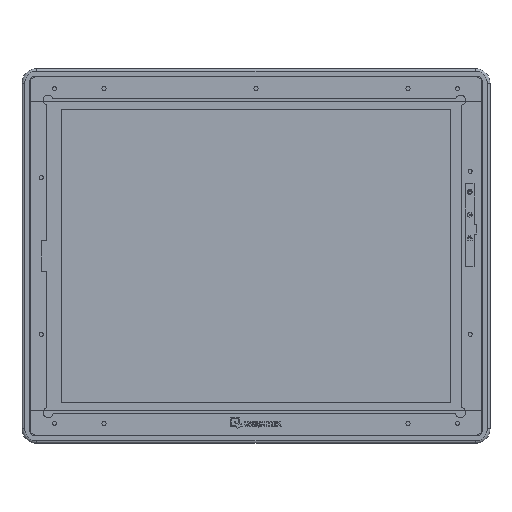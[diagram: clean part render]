
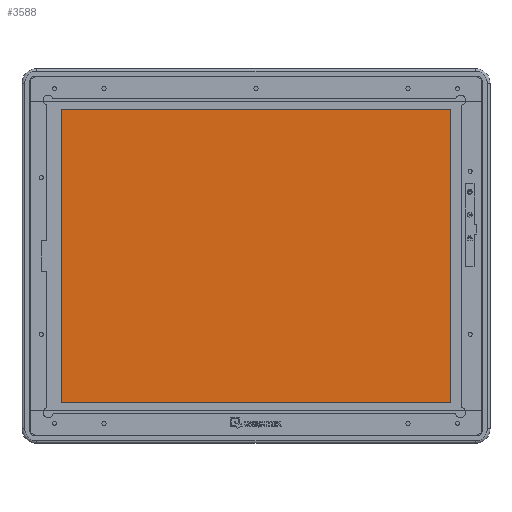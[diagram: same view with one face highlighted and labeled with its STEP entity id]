
A CAD part, top view. The second image highlights one B-rep face of the part: STEP entity #3588.
In plain terms, the highlighted planar face has unit normal (0, 0, 1).
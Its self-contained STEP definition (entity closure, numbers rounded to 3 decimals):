
#744 = DIRECTION ( 'NONE',  ( 0., 1., 0. ) ) ;
#3588 = ADVANCED_FACE ( 'NONE', ( #56107 ), #3956, .T. ) ;
#3956 = PLANE ( 'NONE',  #32877 ) ;
#4427 = VECTOR ( 'NONE', #744, 1000. ) ;
#6649 = LINE ( 'NONE', #51414, #4427 ) ;
#10853 = VERTEX_POINT ( 'NONE', #61330 ) ;
#15661 = VERTEX_POINT ( 'NONE', #62937 ) ;
#25412 = EDGE_LOOP ( 'NONE', ( #74140, #81105, #47798, #30407 ) ) ;
#26137 = CARTESIAN_POINT ( 'NONE',  ( 172., -114.25, 2.88 ) ) ;
#30407 = ORIENTED_EDGE ( 'NONE', *, *, #49638, .F. ) ;
#32270 = CARTESIAN_POINT ( 'NONE',  ( 172., 135.5, 2.88 ) ) ;
#32877 = AXIS2_PLACEMENT_3D ( 'NONE', #32270, #69727, #93448 ) ;
#34839 = CARTESIAN_POINT ( 'NONE',  ( 172., 114.25, 2.88 ) ) ;
#35673 = EDGE_CURVE ( 'NONE', #85887, #15661, #42160, .T. ) ;
#38419 = VECTOR ( 'NONE', #49519, 1000. ) ;
#42160 = LINE ( 'NONE', #34839, #64299 ) ;
#42225 = LINE ( 'NONE', #26137, #38419 ) ;
#42780 = EDGE_CURVE ( 'NONE', #80313, #10853, #42225, .T. ) ;
#43343 = LINE ( 'NONE', #81725, #47045 ) ;
#47045 = VECTOR ( 'NONE', #88503, 1000. ) ;
#47798 = ORIENTED_EDGE ( 'NONE', *, *, #42780, .F. ) ;
#49519 = DIRECTION ( 'NONE',  ( -1., 0., 0. ) ) ;
#49638 = EDGE_CURVE ( 'NONE', #15661, #80313, #43343, .T. ) ;
#49913 = DIRECTION ( 'NONE',  ( 1., 0., 0. ) ) ;
#51414 = CARTESIAN_POINT ( 'NONE',  ( -152.35, 135.5, 2.88 ) ) ;
#51808 = CARTESIAN_POINT ( 'NONE',  ( -152.35, 114.25, 2.88 ) ) ;
#56107 = FACE_OUTER_BOUND ( 'NONE', #25412, .T. ) ;
#57612 = CARTESIAN_POINT ( 'NONE',  ( 152.35, -114.25, 2.88 ) ) ;
#61330 = CARTESIAN_POINT ( 'NONE',  ( -152.35, -114.25, 2.88 ) ) ;
#62937 = CARTESIAN_POINT ( 'NONE',  ( 152.35, 114.25, 2.88 ) ) ;
#64299 = VECTOR ( 'NONE', #49913, 1000. ) ;
#69727 = DIRECTION ( 'NONE',  ( 0., 0., 1. ) ) ;
#74140 = ORIENTED_EDGE ( 'NONE', *, *, #35673, .F. ) ;
#80313 = VERTEX_POINT ( 'NONE', #57612 ) ;
#81105 = ORIENTED_EDGE ( 'NONE', *, *, #88082, .F. ) ;
#81725 = CARTESIAN_POINT ( 'NONE',  ( 152.35, 135.5, 2.88 ) ) ;
#85887 = VERTEX_POINT ( 'NONE', #51808 ) ;
#88082 = EDGE_CURVE ( 'NONE', #10853, #85887, #6649, .T. ) ;
#88503 = DIRECTION ( 'NONE',  ( 0., -1., 0. ) ) ;
#93448 = DIRECTION ( 'NONE',  ( 0., -1., 0. ) ) ;
